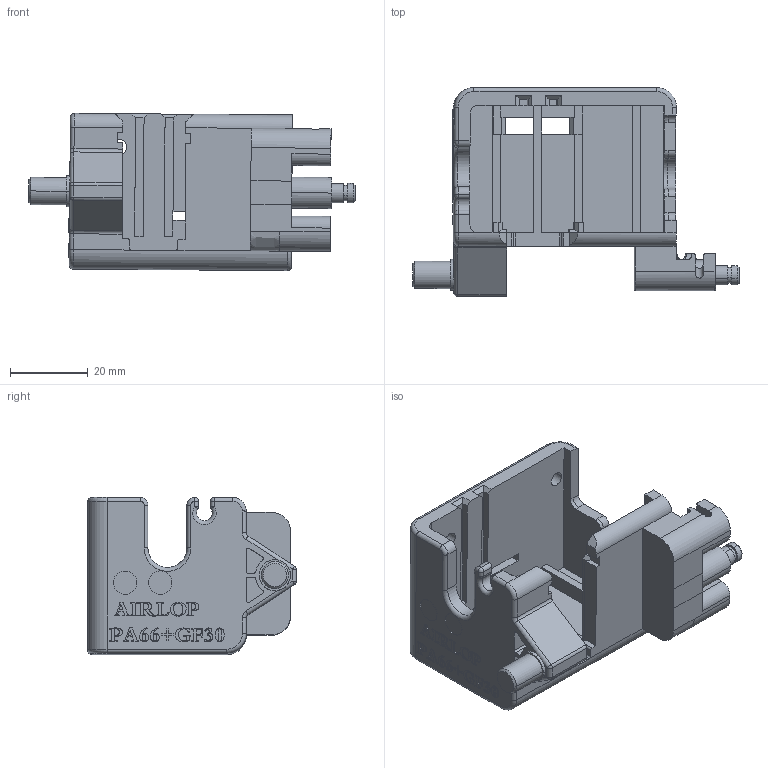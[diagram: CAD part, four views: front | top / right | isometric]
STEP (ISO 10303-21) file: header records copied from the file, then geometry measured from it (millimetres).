
FILE_DESCRIPTION(('CATIA V5 STEP Exchange'),'2;1');
FILE_NAME('G:\够快云库\系统集成开发部\1.部门成员\孙国\座椅控制阀\STP-0521\BPC0010058 升降气阀安装座.stp','2020-05-21T10:19:37+00:00',('none'),('none'),'CATIA Version 5 Release 21 GA (IN-10)','CATIA V5 STEP AP203','none');
FILE_SCHEMA(('CONFIG_CONTROL_DESIGN'));
Products named in the file (1): 573.4203.01_V1
Bounding box: 83.83 x 53.61 x 40.38 mm (x, y, z)
Volume: 34927.6 mm3; surface area: 22223.4 mm2
Topology: 3 solids, 3 shells, 2205 faces, 6397 edges, 4247 vertices
Faces by surface type: plane 2038, cylinder 119, extrusion 16, torus 13, bspline 8, sphere 6, cone 5
Entity records: 71358 total; most frequent: CARTESIAN_POINT 14499, ORIENTED_EDGE 12774, DIRECTION 10112, EDGE_CURVE 6387, VECTOR 5916, LINE 5900, VERTEX_POINT 4245, EDGE_LOOP 2272
